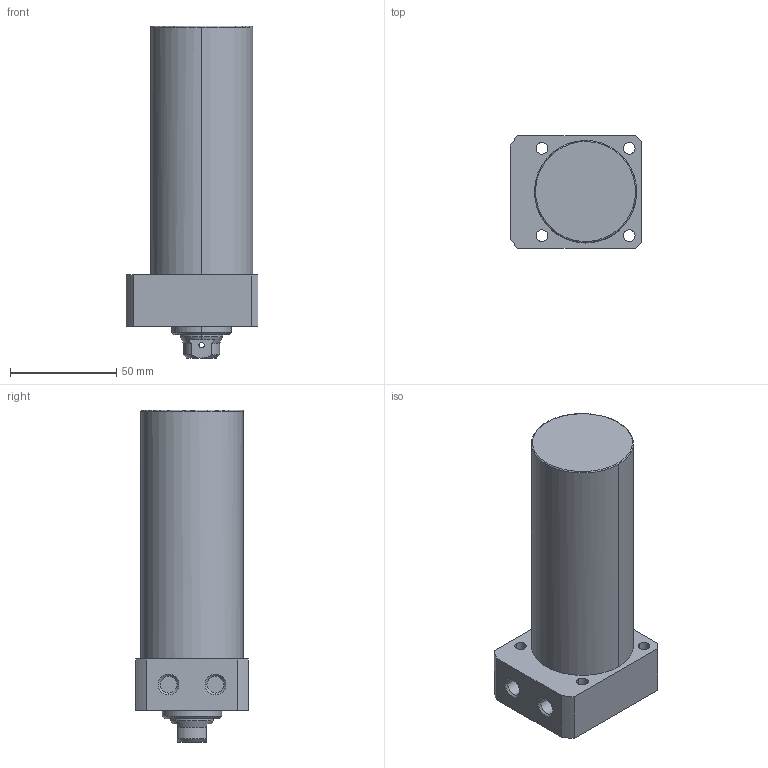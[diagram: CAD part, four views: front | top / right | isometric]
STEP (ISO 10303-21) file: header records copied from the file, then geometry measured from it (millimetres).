
FILE_DESCRIPTION((' '),'2;1');
FILE_NAME( 'TLLR-048CB-090.STEP.stp', '2025-10-24T16:34:33', (' '), ('--- Datakit www.datakit.com---'), ' Datakit CrossCadWare V2024.1 Dec 21 2023', 'Mastercam 2025', ' ');
FILE_SCHEMA(('AUTOMOTIVE_DESIGN { 1 0 10303 214 1 1 1 1 }'));
Length unit declared in the file: millimetre
Products named in the file (1): TLLR-048CB-090
Bounding box: 62 x 53 x 156 mm (x, y, z)
Volume: 290032.4 mm3; surface area: 33045.2 mm2
Topology: 1 solids, 1 shells, 67 faces, 197 edges, 136 vertices
Faces by surface type: cylinder 32, plane 19, cone 14, torus 2
Entity records: 3066 total; most frequent: CARTESIAN_POINT 1147, DIRECTION 426, ORIENTED_EDGE 390, EDGE_CURVE 195, AXIS2_PLACEMENT_3D 179, VERTEX_POINT 136, CIRCLE 111, EDGE_LOOP 85
